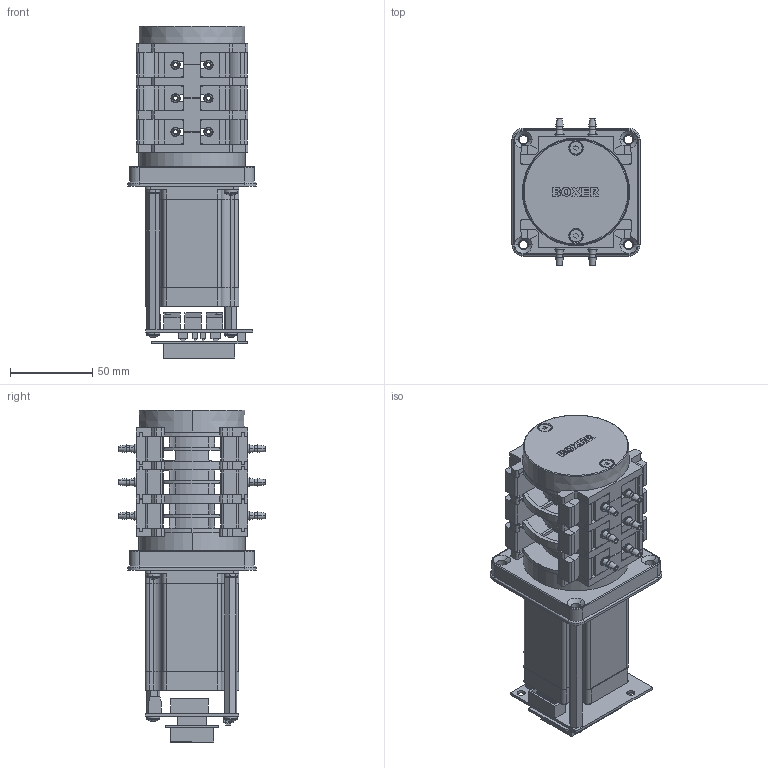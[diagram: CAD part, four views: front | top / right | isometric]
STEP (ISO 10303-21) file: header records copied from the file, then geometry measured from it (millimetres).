
FILE_DESCRIPTION (( 'STEP AP203' ), '1' );
FILE_NAME ('6343.105.STEP', '2018-10-22T13:02:09', ( '' ), ( '' ), 'SwSTEP 2.0', 'SolidWorks 2015', '' );
FILE_SCHEMA (( 'CONFIG_CONTROL_DESIGN' ));
Products named in the file (1): 6343.105
Bounding box: 78 x 89.5 x 202.15 mm (x, y, z)
Surface area: 119144.8 mm2 (no closed solid volume)
Topology: 0 solids, 90 shells, 1333 faces, 5028 edges, 3643 vertices
Faces by surface type: plane 809, cylinder 346, cone 79, torus 66, bspline 21, sphere 12
Entity records: 54401 total; most frequent: CARTESIAN_POINT 11546, DIRECTION 9182, ORIENTED_EDGE 7871, EDGE_CURVE 5028, VERTEX_POINT 3643, LINE 3304, VECTOR 3304, AXIS2_PLACEMENT_3D 2939
